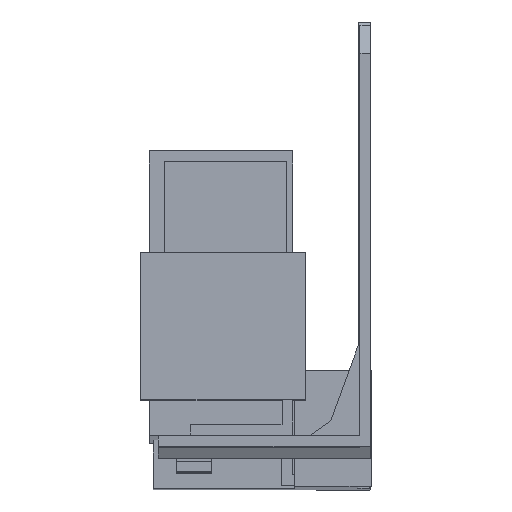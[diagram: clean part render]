
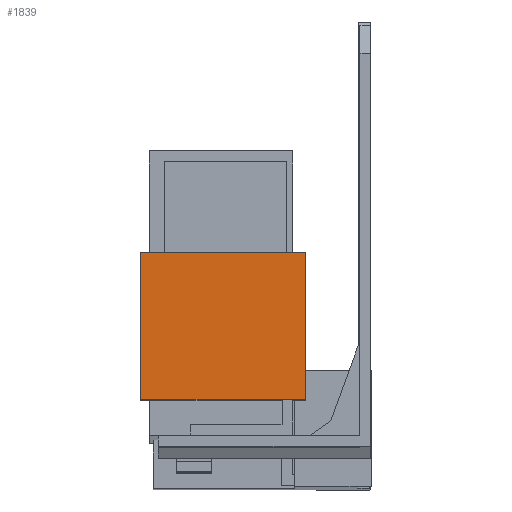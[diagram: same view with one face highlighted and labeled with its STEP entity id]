
A CAD part, front view. The second image highlights one B-rep face of the part: STEP entity #1839.
In plain terms, the highlighted planar face has unit normal (0, -1, 0.003).
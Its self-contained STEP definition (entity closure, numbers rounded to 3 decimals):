
#220 = CARTESIAN_POINT ( 'NONE',  ( -32.7, -29.009, -40.322 ) ) ;
#233 = CARTESIAN_POINT ( 'NONE',  ( -9.3, -28.952, -19.322 ) ) ;
#234 = CARTESIAN_POINT ( 'NONE',  ( -32.7, -28.952, -19.322 ) ) ;
#250 = CARTESIAN_POINT ( 'NONE',  ( -9.3, -29.009, -40.322 ) ) ;
#281 = VERTEX_POINT ( 'NONE', #250 ) ;
#292 = VERTEX_POINT ( 'NONE', #234 ) ;
#293 = VERTEX_POINT ( 'NONE', #233 ) ;
#307 = VERTEX_POINT ( 'NONE', #220 ) ;
#737 = CARTESIAN_POINT ( 'NONE',  ( -9.3, -28.952, -19.322 ) ) ;
#740 = DIRECTION ( 'NONE',  ( -1., 0., 0. ) ) ;
#930 = ORIENTED_EDGE ( 'NONE', *, *, #1148, .F. ) ;
#931 = ORIENTED_EDGE ( 'NONE', *, *, #1122, .F. ) ;
#932 = ORIENTED_EDGE ( 'NONE', *, *, #1129, .T. ) ;
#939 = ORIENTED_EDGE ( 'NONE', *, *, #1061, .T. ) ;
#1061 = EDGE_CURVE ( 'NONE', #293, #292, #3919, .T. ) ;
#1122 = EDGE_CURVE ( 'NONE', #281, #307, #4056, .T. ) ;
#1129 = EDGE_CURVE ( 'NONE', #281, #293, #4077, .T. ) ;
#1148 = EDGE_CURVE ( 'NONE', #307, #292, #4114, .T. ) ;
#1698 = EDGE_LOOP ( 'NONE', ( #939, #930, #931, #932 ) ) ;
#1839 = ADVANCED_FACE ( 'NONE', ( #4416 ), #2599, .T. ) ;
#1939 = CARTESIAN_POINT ( 'NONE',  ( -9.3, -29.009, -40.322 ) ) ;
#1942 = DIRECTION ( 'NONE',  ( -1., 0., 0. ) ) ;
#1955 = CARTESIAN_POINT ( 'NONE',  ( -9.3, -29.009, -40.322 ) ) ;
#1956 = DIRECTION ( 'NONE',  ( 0., 0.003, 1. ) ) ;
#1994 = CARTESIAN_POINT ( 'NONE',  ( -32.7, -29.009, -40.322 ) ) ;
#1995 = DIRECTION ( 'NONE',  ( 0., 0.003, 1. ) ) ;
#2599 = PLANE ( 'NONE',  #4621 ) ;
#2602 = CARTESIAN_POINT ( 'NONE',  ( -9.3, -29.009, -40.322 ) ) ;
#2608 = DIRECTION ( 'NONE',  ( 0., -1., 0.003 ) ) ;
#2609 = DIRECTION ( 'NONE',  ( 1., 0., 0. ) ) ;
#3919 = LINE ( 'NONE', #737, #3945 ) ;
#3945 = VECTOR ( 'NONE', #740, 1000. ) ;
#4056 = LINE ( 'NONE', #1939, #4063 ) ;
#4063 = VECTOR ( 'NONE', #1942, 1000. ) ;
#4077 = LINE ( 'NONE', #1955, #4078 ) ;
#4078 = VECTOR ( 'NONE', #1956, 1000. ) ;
#4114 = LINE ( 'NONE', #1994, #4115 ) ;
#4115 = VECTOR ( 'NONE', #1995, 1000. ) ;
#4416 = FACE_OUTER_BOUND ( 'NONE', #1698, .T. ) ;
#4621 = AXIS2_PLACEMENT_3D ( 'NONE', #2602, #2608, #2609 ) ;
